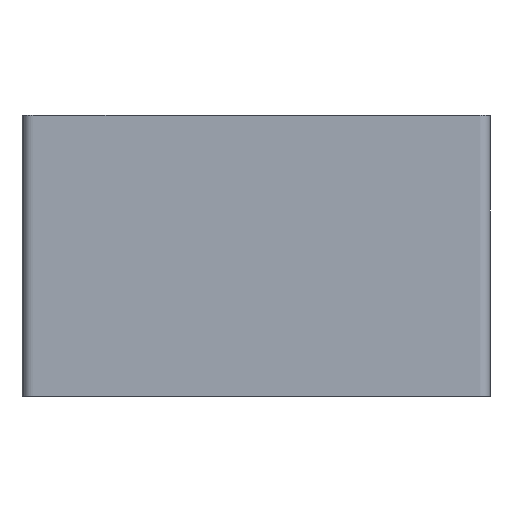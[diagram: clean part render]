
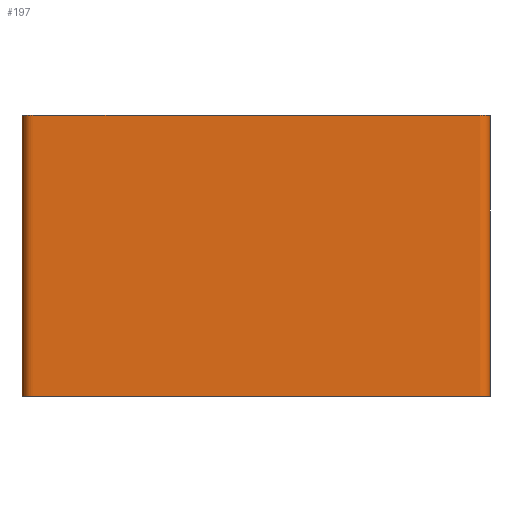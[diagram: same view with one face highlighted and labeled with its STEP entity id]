
A CAD part, top view. The second image highlights one B-rep face of the part: STEP entity #197.
In plain terms, the highlighted free-form (B-spline) face has degree [2, 1] with [11, 2] control points.
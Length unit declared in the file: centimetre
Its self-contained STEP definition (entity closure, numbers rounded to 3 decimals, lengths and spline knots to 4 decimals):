
#197=ADVANCED_FACE($,(#341),#1562,.T.);
#341=FACE_OUTER_BOUND($,#493,.T.);
#493=EDGE_LOOP($,(#996,#997,#998,#999));
#996=ORIENTED_EDGE($,*,*,#1262,.T.);
#997=ORIENTED_EDGE($,*,*,#1259,.T.);
#998=ORIENTED_EDGE($,*,*,#1261,.F.);
#999=ORIENTED_EDGE($,*,*,#1256,.F.);
#1256=EDGE_CURVE($,#1415,#1414,#1818,.T.);
#1259=EDGE_CURVE($,#1418,#1417,#1819,.T.);
#1261=EDGE_CURVE($,#1414,#1417,#1689,.T.);
#1262=EDGE_CURVE($,#1415,#1418,#1690,.T.);
#1414=VERTEX_POINT($,#4194);
#1415=VERTEX_POINT($,#4195);
#1417=VERTEX_POINT($,#4197);
#1418=VERTEX_POINT($,#4198);
#1562=(
BOUNDED_SURFACE()
B_SPLINE_SURFACE(2,1,((#4147,#4148),(#4149,#4150),(#4151,#4152),(#4153,#4154),
(#4155,#4156),(#4157,#4158),(#4159,#4160),(#4161,#4162),(#4163,#4164),(#4165,
#4166),(#4167,#4168)),.UNSPECIFIED.,.F.,.F.,.F.)
B_SPLINE_SURFACE_WITH_KNOTS((3,2,2,2,2,3),(2,2),(-318.4248,-288.9248,
-286.5686,-191.5686,-189.2124,-159.7124),
(0.,60.),.UNSPECIFIED.)
GEOMETRIC_REPRESENTATION_ITEM()
RATIONAL_B_SPLINE_SURFACE(((1.,1.),(1.,1.),(1.,1.),(0.707,0.707),
(1.,1.),(1.,1.),(1.,1.),(0.707,0.707),(1.,1.),(1.,
1.),(1.,1.)))
REPRESENTATION_ITEM($)
SURFACE()
);
#1689=B_SPLINE_CURVE_WITH_KNOTS($,1,(#4138,#4139),.UNSPECIFIED.,.F.,.F.,
(2,2),(0.,60.),.UNSPECIFIED.);
#1690=B_SPLINE_CURVE_WITH_KNOTS($,1,(#4140,#4141),.UNSPECIFIED.,.F.,.F.,
(2,2),(0.,60.),.UNSPECIFIED.);
#1818=(
BOUNDED_CURVE()
B_SPLINE_CURVE(2,(#4110,#4111,#4112,#4113,#4114,#4115,#4116,#4117,#4118,
#4119,#4120),.UNSPECIFIED.,.F.,.F.)
B_SPLINE_CURVE_WITH_KNOTS((3,2,2,2,2,3),(159.7124,189.2124,
191.5686,286.5686,288.9248,318.4248),.UNSPECIFIED.)
CURVE()
GEOMETRIC_REPRESENTATION_ITEM()
RATIONAL_B_SPLINE_CURVE((1.,1.,1.,0.707,1.,1.,1.,0.707,
1.,1.,1.))
REPRESENTATION_ITEM($)
);
#1819=(
BOUNDED_CURVE()
B_SPLINE_CURVE(2,(#4125,#4126,#4127,#4128,#4129,#4130,#4131,#4132,#4133,
#4134,#4135),.UNSPECIFIED.,.F.,.F.)
B_SPLINE_CURVE_WITH_KNOTS((3,2,2,2,2,3),(159.7124,189.2124,
191.5686,286.5686,288.9248,318.4248),.UNSPECIFIED.)
CURVE()
GEOMETRIC_REPRESENTATION_ITEM()
RATIONAL_B_SPLINE_CURVE((1.,1.,1.,0.707,1.,1.,1.,0.707,
1.,1.,1.))
REPRESENTATION_ITEM($)
);
#4110=CARTESIAN_POINT($,(100.,0.,0.));
#4111=CARTESIAN_POINT($,(100.,0.,14.75));
#4112=CARTESIAN_POINT($,(100.,0.,29.5));
#4113=CARTESIAN_POINT($,(100.,0.,32.));
#4114=CARTESIAN_POINT($,(97.5,0.,32.));
#4115=CARTESIAN_POINT($,(50.,0.,32.));
#4116=CARTESIAN_POINT($,(2.5,0.,32.));
#4117=CARTESIAN_POINT($,(0.,0.,32.));
#4118=CARTESIAN_POINT($,(0.,0.,29.5));
#4119=CARTESIAN_POINT($,(0.,0.,14.75));
#4120=CARTESIAN_POINT($,(0.,0.,0.));
#4125=CARTESIAN_POINT($,(100.,60.,0.));
#4126=CARTESIAN_POINT($,(100.,60.,14.75));
#4127=CARTESIAN_POINT($,(100.,60.,29.5));
#4128=CARTESIAN_POINT($,(100.,60.,32.));
#4129=CARTESIAN_POINT($,(97.5,60.,32.));
#4130=CARTESIAN_POINT($,(50.,60.,32.));
#4131=CARTESIAN_POINT($,(2.5,60.,32.));
#4132=CARTESIAN_POINT($,(0.,60.,32.));
#4133=CARTESIAN_POINT($,(0.,60.,29.5));
#4134=CARTESIAN_POINT($,(0.,60.,14.75));
#4135=CARTESIAN_POINT($,(0.,60.,0.));
#4138=CARTESIAN_POINT($,(0.,0.,0.));
#4139=CARTESIAN_POINT($,(0.,60.,0.));
#4140=CARTESIAN_POINT($,(100.,0.,0.));
#4141=CARTESIAN_POINT($,(100.,60.,0.));
#4147=CARTESIAN_POINT($,(0.,0.,0.));
#4148=CARTESIAN_POINT($,(0.,60.,0.));
#4149=CARTESIAN_POINT($,(0.,0.,14.75));
#4150=CARTESIAN_POINT($,(0.,60.,14.75));
#4151=CARTESIAN_POINT($,(0.,0.,29.5));
#4152=CARTESIAN_POINT($,(0.,60.,29.5));
#4153=CARTESIAN_POINT($,(0.,0.,32.));
#4154=CARTESIAN_POINT($,(0.,60.,32.));
#4155=CARTESIAN_POINT($,(2.5,0.,32.));
#4156=CARTESIAN_POINT($,(2.5,60.,32.));
#4157=CARTESIAN_POINT($,(50.,0.,32.));
#4158=CARTESIAN_POINT($,(50.,60.,32.));
#4159=CARTESIAN_POINT($,(97.5,0.,32.));
#4160=CARTESIAN_POINT($,(97.5,60.,32.));
#4161=CARTESIAN_POINT($,(100.,0.,32.));
#4162=CARTESIAN_POINT($,(100.,60.,32.));
#4163=CARTESIAN_POINT($,(100.,0.,29.5));
#4164=CARTESIAN_POINT($,(100.,60.,29.5));
#4165=CARTESIAN_POINT($,(100.,0.,14.75));
#4166=CARTESIAN_POINT($,(100.,60.,14.75));
#4167=CARTESIAN_POINT($,(100.,0.,0.));
#4168=CARTESIAN_POINT($,(100.,60.,0.));
#4194=CARTESIAN_POINT($,(0.,0.,0.));
#4195=CARTESIAN_POINT($,(100.,0.,0.));
#4197=CARTESIAN_POINT($,(0.,60.,0.));
#4198=CARTESIAN_POINT($,(100.,60.,0.));
